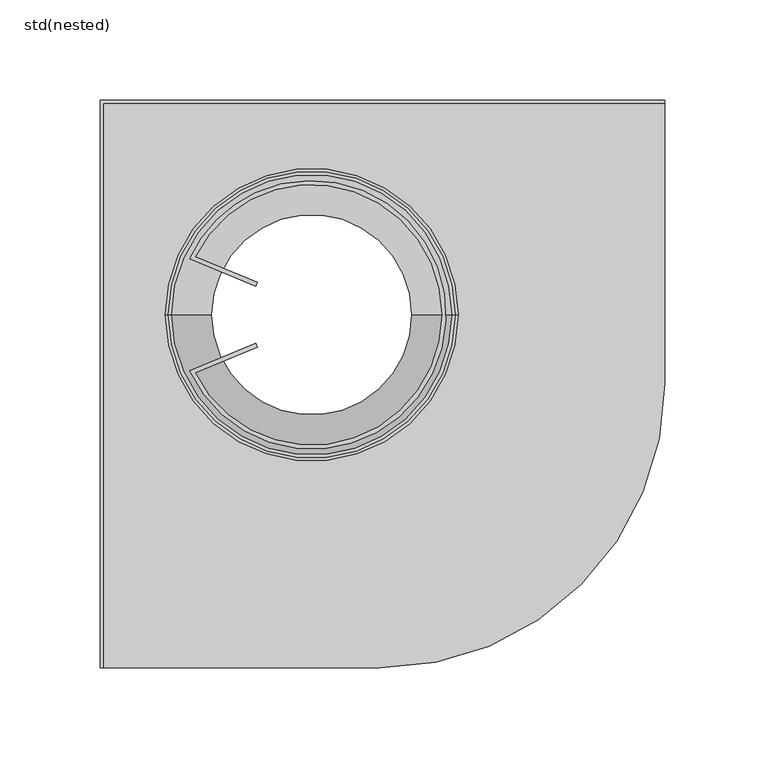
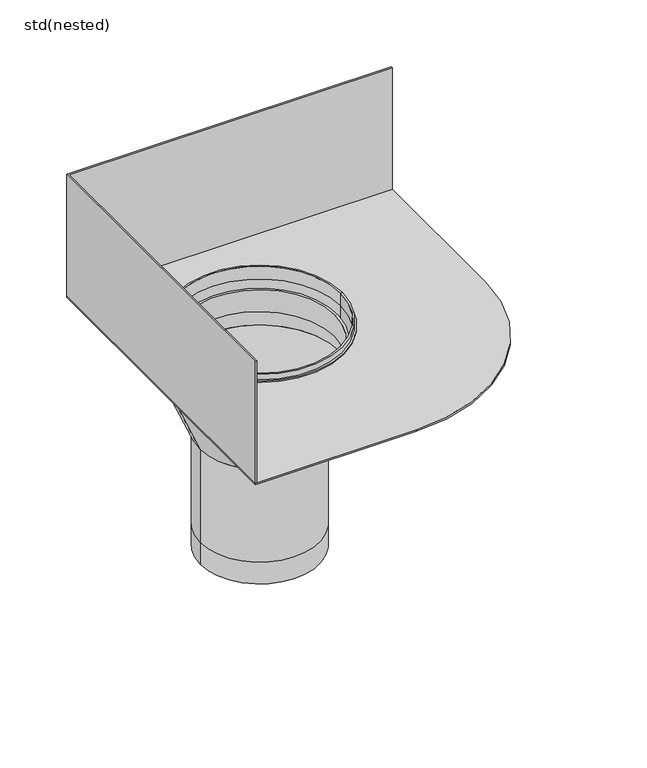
"""IFC4 building model written with IfcOpenShell, lengths in millimetres: sanitary terminal geometry, ZZZ_do not use_PF_ST_UN_direct balcony drain with adhesive flange and corner wall upstand_ACO : std(nested)."""

import ifcopenshell
import ifcopenshell.guid

model = None  # the IFC model being written
_history = None  # IfcOwnerHistory: only IFC2X3 demands one
_inside = {}  # id of a spatial element -> (the spatial element, [elements in it])
_under = {}  # id of a project, library or spatial element -> (it, [spatial elements below it])
_declared = {}  # id of a project -> (the project, [libraries it declares])
_typed = {}  # id of a type object -> (the type object, [elements of that type])
_made_of = {}  # id of a material, layer set ... -> (it, [elements and type objects made of it])


def new_model(schema):
    """Start an empty IFC model of exactly this schema.

    Asked for "IFC4X3", IfcOpenShell would pick the latest addendum, in which some entities
    have other attributes; the version numbers below select the first issue.
    IFC2X3 requires an IfcOwnerHistory on every rooted entity: one is made here for all.
    """
    global model, _history
    if schema == "IFC4X3":
        model = ifcopenshell.file(schema_version=(4, 3, 0, 0))
    else:
        model = ifcopenshell.file(schema=schema)
    _inside.clear()
    _under.clear()
    _declared.clear()
    _typed.clear()
    _made_of.clear()
    _history = None
    if model.schema == "IFC2X3":
        org = make("IfcOrganization", Name="unknown")
        user = make(
            "IfcPersonAndOrganization",
            ThePerson=make("IfcPerson", FamilyName="unknown"),
            TheOrganization=org,
        )
        app = make(
            "IfcApplication",
            ApplicationDeveloper=org,
            Version="unknown",
            ApplicationFullName="unknown",
            ApplicationIdentifier="unknown",
        )
        _history = make(
            "IfcOwnerHistory",
            OwningUser=user,
            OwningApplication=app,
            ChangeAction="ADDED",
            CreationDate=0,
        )
    return model


def make(cls, **values):
    """One entity of the class cls with the attributes given. An attribute that is None is left unset."""
    return model.create_entity(
        cls, **{name: value for name, value in values.items() if value is not None}
    )


def rooted(cls, **values):
    """An entity with a GlobalId (a new one), such as an element, a storey or a relation."""
    return make(cls, GlobalId=ifcopenshell.guid.new(), OwnerHistory=_history, **values)


def si_unit(unit_type, name, prefix=None):
    """IfcSIUnit, for example si_unit("LENGTHUNIT", "METRE", prefix="MILLI")."""
    return make("IfcSIUnit", UnitType=unit_type, Prefix=prefix, Name=name)


def assignment(units):
    """IfcUnitAssignment: the units of a project."""
    return None if units is None else make("IfcUnitAssignment", Units=units)


def point(xyz):
    """IfcCartesianPoint."""
    return None if xyz is None else make("IfcCartesianPoint", Coordinates=xyz)


def direction(xyz):
    """IfcDirection."""
    return None if xyz is None else make("IfcDirection", DirectionRatios=xyz)


def frame(location, z_axis=None, x_axis=None):
    """IfcAxis2Placement3D, a coordinate frame: its origin and axes. An axis left out is left unset."""
    return make(
        "IfcAxis2Placement3D",
        Location=point(location),
        Axis=direction(z_axis),
        RefDirection=direction(x_axis),
    )


def frame_2d(location, x_axis=None):
    """IfcAxis2Placement2D, a coordinate frame in the plane: its origin and x axis."""
    return make(
        "IfcAxis2Placement2D", Location=point(location), RefDirection=direction(x_axis)
    )


def origin():
    """The frame at (0, 0, 0) with its axes left unset."""
    return frame((0.0, 0.0, 0.0))


def origin_2d():
    """The frame at (0, 0) in the plane with its x axis left unset."""
    return frame_2d((0.0, 0.0))


def place(relative_to, where):
    """IfcLocalPlacement: puts the frame where relative to a parent placement (None: the world)."""
    return make(
        "IfcLocalPlacement", PlacementRelTo=relative_to, RelativePlacement=where
    )


def context(
    kind, dimensions, precision=None, world=None, true_north=None, identifier=None
):
    """IfcGeometricRepresentationContext, for example the 3D "Model" context."""
    return make(
        "IfcGeometricRepresentationContext",
        ContextIdentifier=identifier,
        ContextType=kind,
        CoordinateSpaceDimension=dimensions,
        Precision=precision,
        WorldCoordinateSystem=world,
        TrueNorth=true_north,
    )


def project(units=None, contexts=None):
    """IfcProject with its units and contexts."""
    return rooted(
        "IfcProject",
        Name="project",
        RepresentationContexts=contexts,
        UnitsInContext=assignment(units),
    )


def spatial(cls, under=None, at=None, **own):
    """A site, building, storey or space (cls), placed at a placement, below another one or the project."""
    s = rooted(cls, ObjectPlacement=at, **own)
    if under is not None:
        _under.setdefault(under.id(), (under, []))[1].append(s)
    return s


def polyline(points):
    """IfcPolyline through the points."""
    return make("IfcPolyline", Points=[point(p) for p in points])


def circle_curve(where, radius):
    """IfcCircle in the frame where."""
    return make("IfcCircle", Position=where, Radius=radius)


def trimmed(basis, trim1, trim2, sense, master):
    """IfcTrimmedCurve: the piece of a basis curve between two trims."""
    return make(
        "IfcTrimmedCurve",
        BasisCurve=basis,
        Trim1=trim1,
        Trim2=trim2,
        SenseAgreement=sense,
        MasterRepresentation=master,
    )


def segment(curve, same_sense, transition):
    """IfcCompositeCurveSegment."""
    return make(
        "IfcCompositeCurveSegment",
        Transition=transition,
        SameSense=same_sense,
        ParentCurve=curve,
    )


def composite_curve(segments, self_intersect=None):
    """IfcCompositeCurve: segments joined end to end."""
    return make("IfcCompositeCurve", Segments=segments, SelfIntersect=self_intersect)


def outline(outer, holes=None, kind="AREA"):
    """IfcArbitraryClosedProfileDef: a profile drawn as a closed curve; with holes, ...WithVoids."""
    if holes is None:
        return make("IfcArbitraryClosedProfileDef", ProfileType=kind, OuterCurve=outer)
    return make(
        "IfcArbitraryProfileDefWithVoids",
        ProfileType=kind,
        OuterCurve=outer,
        InnerCurves=holes,
    )


def extrude(swept, where, along, depth):
    """IfcExtrudedAreaSolid: the profile swept, set in the frame where, extruded along a direction by depth."""
    return make(
        "IfcExtrudedAreaSolid",
        SweptArea=swept,
        Position=where,
        ExtrudedDirection=direction(along),
        Depth=depth,
    )


def shape(context_of_items, identifier, shape_type, items):
    """IfcShapeRepresentation: the items that make up one representation, for example the "Body"."""
    return make(
        "IfcShapeRepresentation",
        ContextOfItems=context_of_items,
        RepresentationIdentifier=identifier,
        RepresentationType=shape_type,
        Items=items,
    )


def source(mapping_origin, context_of_items, identifier, shape_type, items):
    """IfcRepresentationMap: a shape defined once, which mapped items show again and again."""
    return make(
        "IfcRepresentationMap",
        MappingOrigin=mapping_origin,
        MappedRepresentation=shape(context_of_items, identifier, shape_type, items),
    )


def transform(
    local_origin,
    x_axis=None,
    y_axis=None,
    z_axis=None,
    scale=None,
    scale2=None,
    scale3=None,
    uniform=True,
):
    """IfcCartesianTransformationOperator3D, or its non-uniform kind. x_axis, y_axis, z_axis: its Axis1, 2, 3."""
    if uniform:
        return make(
            "IfcCartesianTransformationOperator3D",
            Axis1=direction(x_axis),
            Axis2=direction(y_axis),
            LocalOrigin=point(local_origin),
            Scale=scale,
            Axis3=direction(z_axis),
        )
    return make(
        "IfcCartesianTransformationOperator3DnonUniform",
        Axis1=direction(x_axis),
        Axis2=direction(y_axis),
        LocalOrigin=point(local_origin),
        Scale=scale,
        Axis3=direction(z_axis),
        Scale2=scale2,
        Scale3=scale3,
    )


def mapped(mapping_source, mapping_target):
    """IfcMappedItem: shows the shape of a source again, moved by a transform."""
    return make(
        "IfcMappedItem", MappingSource=mapping_source, MappingTarget=mapping_target
    )


def made_of(thing, what):
    """Note that an element or type object is made of a material, layer set ...; save() writes the relation."""
    if what is not None:
        _made_of.setdefault(what.id(), (what, []))[1].append(thing)
    return thing


def element(
    cls,
    number,
    at=None,
    inside=None,
    cuts=None,
    type_object=None,
    material=None,
    context=None,
    identifier="Body",
    shape_type=None,
    held_by="IfcProductDefinitionShape",
    body=None,
    shapes=None,
    **own,
):
    """One element of the class cls, such as IfcWall. Its Tag is "e" and its number.

    at: its placement. inside: the storey or other place that contains it. cuts: it is an
    opening in that element (IfcRelVoidsElement). A single representation is given by context,
    identifier, shape_type and body (its items); several are given by shapes. held_by: the class
    of the entity that holds the representations. save() writes the other relations.
    """
    e = rooted(cls, Tag="e%d" % number, ObjectPlacement=at, **own)
    if body is not None:
        shapes = [shape(context, identifier, shape_type, body)]
    if shapes is not None:
        e.Representation = make(held_by, Representations=shapes)
    if inside is not None:
        _inside.setdefault(inside.id(), (inside, []))[1].append(e)
    if cuts is not None:
        rooted(
            "IfcRelVoidsElement", RelatingBuildingElement=cuts, RelatedOpeningElement=e
        )
    if type_object is not None:
        _typed.setdefault(type_object.id(), (type_object, []))[1].append(e)
    return made_of(e, material)


def aggregate(whole, parts):
    """IfcRelAggregates: a whole, such as a stair, and the parts it consists of."""
    return rooted("IfcRelAggregates", RelatingObject=whole, RelatedObjects=parts)


def save(model, path):
    """Write the relations noted so far, then the file.

    IfcRelAggregates (storeys below a building ...), IfcRelContainedInSpatialStructure (elements
    in a storey), IfcRelDefinesByType, IfcRelAssociatesMaterial and IfcRelDeclares: one each for
    every whole, place, type object, material and project.
    """
    for whole, parts in _under.values():
        aggregate(whole, parts)
    for where, things in _inside.values():
        rooted(
            "IfcRelContainedInSpatialStructure",
            RelatedElements=things,
            RelatingStructure=where,
        )
    for kind, things in _typed.values():
        rooted("IfcRelDefinesByType", RelatedObjects=things, RelatingType=kind)
    for what, things in _made_of.values():
        rooted("IfcRelAssociatesMaterial", RelatedObjects=things, RelatingMaterial=what)
    for by, libraries in _declared.values():
        rooted("IfcRelDeclares", RelatingContext=by, RelatedDefinitions=libraries)
    model.write(path)


def plane_surface(at):
    """IfcPlane: the flat surface through the origin of the frame at, square to its z axis."""
    return make("IfcPlane", Position=at)


def cylinder_surface(at, radius):
    """IfcCylindricalSurface: all points at the distance radius from the z axis of the frame at."""
    return make("IfcCylindricalSurface", Position=at, Radius=radius)


def revolved_surface(curve, axis_point, axis_direction):
    """IfcSurfaceOfRevolution: the curve turned about the line through axis_point along axis_direction."""
    return make(
        "IfcSurfaceOfRevolution",
        SweptCurve=make("IfcArbitraryOpenProfileDef", ProfileType="CURVE", Curve=curve),
        AxisPosition=make("IfcAxis1Placement", Location=point(axis_point), Axis=direction(axis_direction)),
    )


def advanced_brep(points, edges, surfaces, faces):
    """IfcAdvancedBrep: a solid bounded by faces that lie on surfaces and meet in shared edges.

    An edge is (start, end): straight between two places in points (the first is 0);
    or (start, end, curve); or (start, end, curve, False) where it runs against its curve.
    A face is (place in surfaces, loops), or (place, loops, False) where it looks against
    its surface's normal. A loop lists edges by number (the first is 1), with a minus sign
    where the edge is run from its end to its start. The first loop is the outer one.
    """
    corners = [point(p) for p in points]
    vertices = [make("IfcVertexPoint", VertexGeometry=c) for c in corners]
    made = []
    for start, end, *more in edges:
        made.append(
            make(
                "IfcEdgeCurve",
                EdgeStart=vertices[start],
                EdgeEnd=vertices[end],
                EdgeGeometry=more[0] if more else make("IfcPolyline", Points=[corners[start], corners[end]]),
                SameSense=more[1] if len(more) > 1 else True,
            )
        )
    hull = []
    for where, loops, *sense in faces:
        bounds = []
        for j, loop in enumerate(loops):
            ring = [make("IfcOrientedEdge", EdgeElement=made[abs(k) - 1], Orientation=k > 0) for k in loop]
            bounds.append(
                make(
                    "IfcFaceOuterBound" if j == 0 else "IfcFaceBound",
                    Bound=make("IfcEdgeLoop", EdgeList=ring),
                    Orientation=True,
                )
            )
        hull.append(make("IfcAdvancedFace", Bounds=bounds, FaceSurface=surfaces[where], SameSense=sense[0] if sense else True))
    return make("IfcAdvancedBrep", Outer=make("IfcClosedShell", CfsFaces=hull))


def std_nested_9ae5e873(model_context):
    return source(origin(), model_context, "Body", "SolidModel", [
        extrude(outline(polyline([(-104.0, -176.0), (-105.5, -176.0), (-105.5, 107.0), (176.0, 107.0), (176.0, 105.5), (-104.0, 105.5), (-104.0, -176.0)])), frame((0.0, 0.0, -6.0), z_axis=(0.0, 0.0, 1.0), x_axis=(1.0, 0.0, 0.0)), (0.0, 0.0, 1.0), 111.5),
        extrude(outline(composite_curve([segment(trimmed(circle_curve(origin_2d(), 67.0), [point((-60.8914461, 27.950524))], [point((-28.1544715, 60.7974155))], False, "CARTESIAN"), True, "CONTINUOUS"), segment(trimmed(circle_curve(origin_2d(), 67.0), [point((-28.1544715, 60.7974155))], [point((-60.8914461, -27.950524))], False, "CARTESIAN"), True, "CONTINUOUS"), segment(polyline([(-60.8914461, -27.950524), (-27.9817054, -14.3050218), (-27.2156753, -16.152506), (-58.177065, -28.9901554)]), True, "CONTINUOUS"), segment(trimmed(circle_curve(origin_2d(), 65.0), [point((-58.177065, -28.9901554))], [point((-58.177065, 28.9901554))], True, "CARTESIAN"), True, "CONTINUOUS"), segment(polyline([(-58.177065, 28.9901554), (-27.2156753, 16.152506), (-27.9817054, 14.3050218), (-60.8914461, 27.950524)]), True, "CONTINUOUS")], self_intersect=False)), frame((0.0, 0.0, -38.0), z_axis=(0.0, 0.0, 1.0), x_axis=(1.0, 0.0, 0.0)), (0.0, 0.0, 1.0), 20.0),
        advanced_brep(
        [(71.5, 0.0, -21.0), (-71.5, 0.0, -21.0), (-73.0, 0.0, -21.0), (73.0, 0.0, -21.0), (71.5, 0.0, -10.0), (-71.5, 0.0, -10.0), (71.5, 0.0, -5.0), (-71.5, 0.0, -5.0), (73.0, 0.0, -5.0), (-73.0, 0.0, -5.0), (73.0, 0.0, -10.0), (-73.0, 0.0, -10.0)],
        [
            (0, 1, circle_curve(frame((0.0, 0.0, -21.0), z_axis=(0.0, 0.0, 1.0), x_axis=(-1.0, 0.0, 0.0)), 71.5)),
            (1, 2),
            (2, 3, circle_curve(frame((0.0, 0.0, -21.0), z_axis=(0.0, 0.0, -1.0), x_axis=(-1.0, 0.0, 0.0)), 73.0)),
            (3, 0),
            (1, 0, circle_curve(frame((0.0, 0.0, -21.0), z_axis=(0.0, 0.0, 1.0), x_axis=(-1.0, 0.0, 0.0)), 71.5)),
            (3, 2, circle_curve(frame((0.0, 0.0, -21.0), z_axis=(0.0, 0.0, -1.0), x_axis=(-1.0, 0.0, 0.0)), 73.0)),
            (4, 5, circle_curve(frame((0.0, 0.0, -10.0), z_axis=(0.0, 0.0, 1.0), x_axis=(-1.0, 0.0, 0.0)), 71.5)),
            (5, 1),
            (0, 4),
            (5, 4, circle_curve(frame((0.0, 0.0, -10.0), z_axis=(0.0, 0.0, 1.0), x_axis=(-1.0, 0.0, 0.0)), 71.5)),
            (6, 7, circle_curve(frame((0.0, 0.0, -5.0), z_axis=(0.0, 0.0, 1.0), x_axis=(-1.0, 0.0, 0.0)), 71.5)),
            (7, 5),
            (4, 6),
            (7, 6, circle_curve(frame((0.0, 0.0, -5.0), z_axis=(0.0, 0.0, 1.0), x_axis=(-1.0, 0.0, 0.0)), 71.5)),
            (8, 9, circle_curve(frame((0.0, 0.0, -5.0), z_axis=(0.0, 0.0, 1.0), x_axis=(-1.0, 0.0, 0.0)), 73.0)),
            (9, 7),
            (6, 8),
            (9, 8, circle_curve(frame((0.0, 0.0, -5.0), z_axis=(0.0, 0.0, 1.0), x_axis=(-1.0, 0.0, 0.0)), 73.0)),
            (10, 11, circle_curve(frame((0.0, 0.0, -10.0), z_axis=(0.0, 0.0, 1.0), x_axis=(-1.0, 0.0, 0.0)), 73.0)),
            (11, 9),
            (8, 10),
            (11, 10, circle_curve(frame((0.0, 0.0, -10.0), z_axis=(0.0, 0.0, 1.0), x_axis=(-1.0, 0.0, 0.0)), 73.0)),
            (2, 11),
            (10, 3),
        ],
        [
            plane_surface(frame((0.0, 0.0, -21.0), z_axis=(0.0, 0.0, -1.0), x_axis=(-1.0, 0.0, 0.0))),
            revolved_surface(polyline([(-71.5, 0.0, -21.0), (-71.5, 0.0, -10.0)]), (0.0, 0.0, 22.5), (0.0, 0.0, -1.0)),
            revolved_surface(polyline([(-71.5, 0.0, -10.0), (-71.5, 0.0, -5.0)]), (0.0, 0.0, 22.5), (0.0, 0.0, -1.0)),
            plane_surface(frame((0.0, 0.0, -5.0), z_axis=(0.0, 0.0, 1.0), x_axis=(-1.0, 0.0, 0.0))),
            cylinder_surface(frame((0.0, 0.0, 22.5), z_axis=(0.0, 0.0, -1.0), x_axis=(-1.0, 0.0, 0.0)), 73.0),
        ],
        [
            (0, [[1, 2, 3, 4]]),
            (0, [[5, -4, 6, -2]]),
            (1, [[7, 8, -1, 9]]),
            (1, [[10, -9, -5, -8]]),
            (2, [[11, 12, -7, 13]]),
            (2, [[14, -13, -10, -12]]),
            (3, [[15, 16, -11, 17]]),
            (3, [[18, -17, -14, -16]]),
            (4, [[19, 20, -15, 21]]),
            (4, [[22, -21, -18, -20]]),
            (4, [[-3, 23, -19, 24]]),
            (4, [[-6, -24, -22, -23]]),
        ],
    ),
        extrude(outline(composite_curve([segment(polyline([(-105.5, 107.0), (176.0, 107.0), (176.0, -34.3)]), True, "CONTINUOUS"), segment(trimmed(circle_curve(frame_2d((34.25, -34.3)), 141.75), [point((176.0, -34.3))], [point((34.25, -176.05))], False, "CARTESIAN"), True, "CONTINUOUS"), segment(polyline([(34.25, -176.05), (-105.5, -176.05), (-105.5, 107.0)]), True, "CONTINUOUS")], self_intersect=False), holes=[composite_curve([segment(trimmed(circle_curve(origin_2d(), 71.5), [point((-71.5, 0.0))], [point((71.5, 0.0))], True, "CARTESIAN"), True, "CONTINUOUS"), segment(trimmed(circle_curve(origin_2d(), 71.5), [point((71.5, 0.0))], [point((-71.5, 0.0))], True, "CARTESIAN"), True, "CONTINUOUS")], self_intersect=False)]), frame((0.0, 0.0, -7.5), z_axis=(0.0, 0.0, 1.0), x_axis=(1.0, 0.0, 0.0)), (0.0, 0.0, 1.0), 1.5),
        advanced_brep(
        [(51.5, 0.0, -186.0), (-51.5, 0.0, -186.0), (-51.5, 0.0, -101.0), (51.5, 0.0, -101.0), (51.5, 0.0, -206.0), (-51.5, 0.0, -206.0), (50.0, 0.0, -206.0), (-50.0, 0.0, -206.0), (50.0, 0.0, -100.6941222), (-50.0, 0.0, -100.6941222), (70.0, 0.0, -53.6941222), (-70.0, 0.0, -53.6941222), (70.0, 0.0, -11.7426407), (-70.0, 0.0, -11.7426407), (70.0, 0.0, 0.0), (-70.0, 0.0, 0.0), (71.5, 0.0, 0.0), (-71.5, 0.0, 0.0), (71.5, 0.0, -11.7426407), (-71.5, 0.0, -11.7426407), (71.5, 0.0, -54.0), (-71.5, 0.0, -54.0)],
        [
            (0, 1, circle_curve(frame((0.0, 0.0, -186.0), z_axis=(0.0, 0.0, 1.0), x_axis=(-1.0, 0.0, 0.0)), 51.5)),
            (1, 2),
            (2, 3, circle_curve(frame((0.0, 0.0, -101.0), z_axis=(0.0, 0.0, -1.0), x_axis=(-1.0, 0.0, 0.0)), 51.5)),
            (3, 0),
            (1, 0, circle_curve(frame((0.0, 0.0, -186.0), z_axis=(0.0, 0.0, 1.0), x_axis=(-1.0, 0.0, 0.0)), 51.5)),
            (3, 2, circle_curve(frame((0.0, 0.0, -101.0), z_axis=(0.0, 0.0, -1.0), x_axis=(-1.0, 0.0, 0.0)), 51.5)),
            (4, 5, circle_curve(frame((0.0, 0.0, -206.0), z_axis=(0.0, 0.0, 1.0), x_axis=(-1.0, 0.0, 0.0)), 51.5)),
            (5, 1),
            (0, 4),
            (5, 4, circle_curve(frame((0.0, 0.0, -206.0), z_axis=(0.0, 0.0, 1.0), x_axis=(-1.0, 0.0, 0.0)), 51.5)),
            (6, 7, circle_curve(frame((0.0, 0.0, -206.0), z_axis=(0.0, 0.0, 1.0), x_axis=(-1.0, 0.0, 0.0)), 50.0)),
            (7, 5),
            (4, 6),
            (7, 6, circle_curve(frame((0.0, 0.0, -206.0), z_axis=(0.0, 0.0, 1.0), x_axis=(-1.0, 0.0, 0.0)), 50.0)),
            (8, 9, circle_curve(frame((0.0, 0.0, -100.6941222), z_axis=(0.0, 0.0, 1.0), x_axis=(-1.0, 0.0, 0.0)), 50.0)),
            (9, 7),
            (6, 8),
            (9, 8, circle_curve(frame((0.0, 0.0, -100.6941222), z_axis=(0.0, 0.0, 1.0), x_axis=(-1.0, 0.0, 0.0)), 50.0)),
            (10, 11, circle_curve(frame((0.0, 0.0, -53.6941222), z_axis=(0.0, 0.0, 1.0), x_axis=(-1.0, 0.0, 0.0)), 70.0)),
            (11, 9),
            (8, 10),
            (11, 10, circle_curve(frame((0.0, 0.0, -53.6941222), z_axis=(0.0, 0.0, 1.0), x_axis=(-1.0, 0.0, 0.0)), 70.0)),
            (12, 13, circle_curve(frame((0.0, 0.0, -11.7426407), z_axis=(0.0, 0.0, 1.0), x_axis=(-1.0, 0.0, 0.0)), 70.0)),
            (13, 11),
            (10, 12),
            (13, 12, circle_curve(frame((0.0, 0.0, -11.7426407), z_axis=(0.0, 0.0, 1.0), x_axis=(-1.0, 0.0, 0.0)), 70.0)),
            (14, 15, circle_curve(frame((0.0, 0.0, 0.0), z_axis=(0.0, 0.0, 1.0), x_axis=(-1.0, 0.0, 0.0)), 70.0)),
            (15, 13),
            (12, 14),
            (15, 14, circle_curve(frame((0.0, 0.0, 0.0), z_axis=(0.0, 0.0, 1.0), x_axis=(-1.0, 0.0, 0.0)), 70.0)),
            (16, 17, circle_curve(frame((0.0, 0.0, 0.0), z_axis=(0.0, 0.0, 1.0), x_axis=(-1.0, 0.0, 0.0)), 71.5)),
            (17, 15),
            (14, 16),
            (17, 16, circle_curve(frame((0.0, 0.0, 0.0), z_axis=(0.0, 0.0, 1.0), x_axis=(-1.0, 0.0, 0.0)), 71.5)),
            (18, 19, circle_curve(frame((0.0, 0.0, -11.7426407), z_axis=(0.0, 0.0, 1.0), x_axis=(-1.0, 0.0, 0.0)), 71.5)),
            (19, 17),
            (16, 18),
            (19, 18, circle_curve(frame((0.0, 0.0, -11.7426407), z_axis=(0.0, 0.0, 1.0), x_axis=(-1.0, 0.0, 0.0)), 71.5)),
            (20, 21, circle_curve(frame((0.0, 0.0, -54.0), z_axis=(0.0, 0.0, 1.0), x_axis=(-1.0, 0.0, 0.0)), 71.5)),
            (21, 19),
            (18, 20),
            (21, 20, circle_curve(frame((0.0, 0.0, -54.0), z_axis=(0.0, 0.0, 1.0), x_axis=(-1.0, 0.0, 0.0)), 71.5)),
            (2, 21),
            (20, 3),
        ],
        [
            cylinder_surface(frame((0.0, 0.0, -278.0), z_axis=(0.0, 0.0, -1.0), x_axis=(-1.0, 0.0, 0.0)), 51.5),
            plane_surface(frame((0.0, 0.0, -206.0), z_axis=(0.0, 0.0, -1.0), x_axis=(-1.0, 0.0, 0.0))),
            revolved_surface(polyline([(-50.0, 0.0, -206.0), (-50.0, 0.0, -100.69412219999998)]), (0.0, 0.0, -278.0), (0.0, 0.0, -1.0)),
            revolved_surface(polyline([(-50.0, 0.0, -100.6941222), (-70.0, 0.0, -53.6941222)]), (0.0, 0.0, -278.0), (0.0, 0.0, -1.0)),
            revolved_surface(polyline([(-70.0, 0.0, -53.69412220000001), (-70.0, 0.0, -11.742640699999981)]), (0.0, 0.0, -278.0), (0.0, 0.0, -1.0)),
            revolved_surface(polyline([(-70.0, 0.0, -11.742640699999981), (-70.0, 0.0, 0.0)]), (0.0, 0.0, -278.0), (0.0, 0.0, -1.0)),
            plane_surface(frame((0.0, 0.0, 0.0), z_axis=(0.0, 0.0, 1.0), x_axis=(-1.0, 0.0, 0.0))),
            cylinder_surface(frame((0.0, 0.0, -278.0), z_axis=(0.0, 0.0, -1.0), x_axis=(-1.0, 0.0, 0.0)), 71.5),
            revolved_surface(polyline([(-71.5, 0.0, -54.0), (-51.5, 0.0, -101.0)]), (0.0, 0.0, -278.0), (0.0, 0.0, -1.0)),
        ],
        [
            (0, [[1, 2, 3, 4]]),
            (0, [[5, -4, 6, -2]]),
            (0, [[7, 8, -1, 9]]),
            (0, [[10, -9, -5, -8]]),
            (1, [[11, 12, -7, 13]]),
            (1, [[14, -13, -10, -12]]),
            (2, [[15, 16, -11, 17]]),
            (2, [[18, -17, -14, -16]]),
            (3, [[19, 20, -15, 21]]),
            (3, [[22, -21, -18, -20]]),
            (4, [[23, 24, -19, 25]]),
            (4, [[26, -25, -22, -24]]),
            (5, [[27, 28, -23, 29]]),
            (5, [[30, -29, -26, -28]]),
            (6, [[31, 32, -27, 33]]),
            (6, [[34, -33, -30, -32]]),
            (7, [[35, 36, -31, 37]]),
            (7, [[38, -37, -34, -36]]),
            (7, [[39, 40, -35, 41]]),
            (7, [[42, -41, -38, -40]]),
            (8, [[-3, 43, -39, 44]]),
            (8, [[-6, -44, -42, -43]]),
        ],
    ),
    ])


if __name__ == "__main__":
    model = new_model("IFC4")
    model_context = context("Model", 3, world=origin())
    ifc_project = project(units=[si_unit("LENGTHUNIT", "METRE", prefix="MILLI")], contexts=[model_context])
    site = spatial("IfcSite", under=ifc_project)
    building = spatial("IfcBuilding", under=site)
    placement = place(None, origin())
    std_nested_shape = std_nested_9ae5e873(model_context)
    element("IfcSanitaryTerminal", 1, ObjectType="ZZZ_do not use_PF_ST_UN_direct balcony drain with adhesive flange and corner wall upstand_ACO : std(nested)", at=placement, inside=building, context=model_context, shape_type="MappedRepresentation", body=[
        mapped(std_nested_shape, transform((0.0, 0.0, 0.0), x_axis=(1.0, 0.0, 0.0), y_axis=(0.0, 1.0, 0.0), z_axis=(0.0, 0.0, 1.0))),
    ])
    save(model, "model.ifc")
